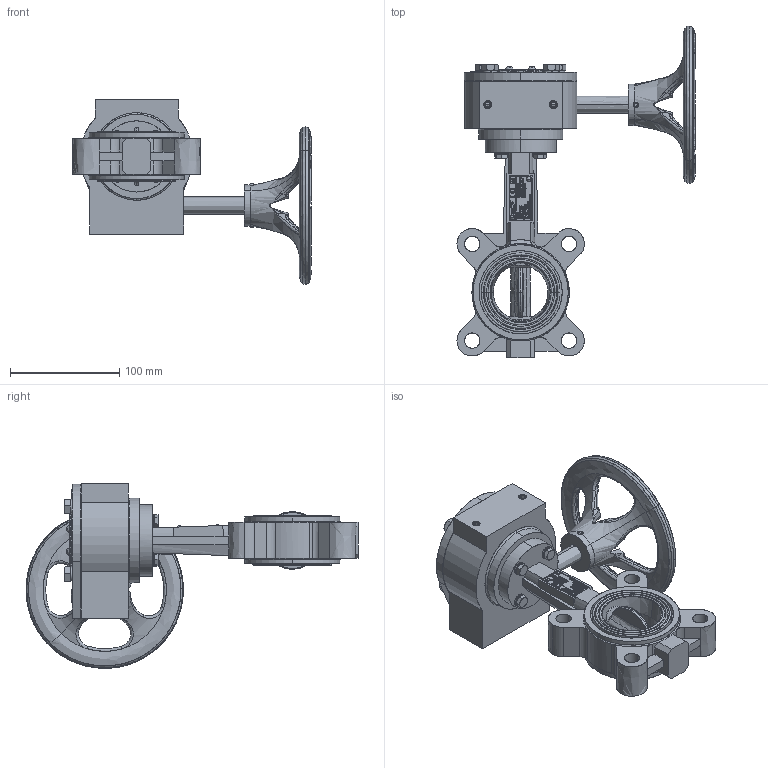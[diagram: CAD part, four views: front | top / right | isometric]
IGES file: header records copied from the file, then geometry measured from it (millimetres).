
Start section: SolidWorks IGES file using analytic representation for surfaces
Global section: file name: H:\BE FABRICATION\BE SERIE\VP\VP SERIE\F072 VPG\plan 3D\VPG-08\LUG\DN50\VPG464X-08XX0050.igs; native system: SolidWorks 2020; preprocessor: SolidWorks 2020; author: k.gigout; date: 220630.101503; units: millimetre
Bounding box: 217.64 x 303.5 x 169 mm (x, y, z)
Surface area: 177614 mm2 (no closed solid volume)
Topology: 0 solids, 0 shells, 966 faces, 21435 edges, 21423 vertices
Faces by surface type: bspline 724, revolution 242
